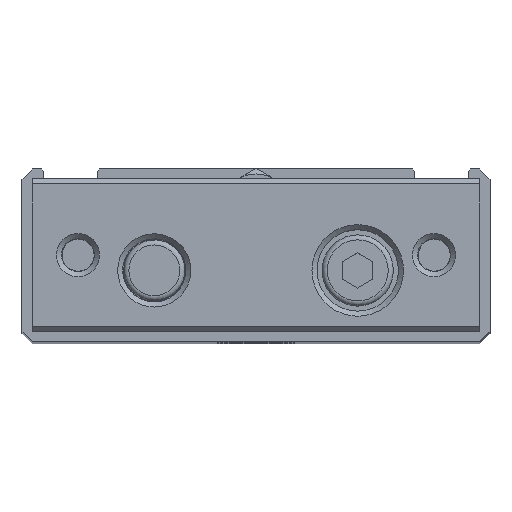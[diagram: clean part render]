
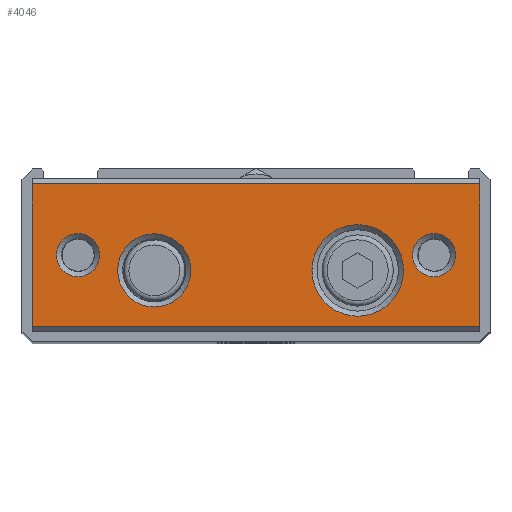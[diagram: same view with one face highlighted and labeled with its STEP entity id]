
A CAD part, top view. The second image highlights one B-rep face of the part: STEP entity #4046.
In plain terms, the highlighted planar face has unit normal (0, 0, 1).
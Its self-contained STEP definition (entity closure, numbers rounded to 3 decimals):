
#3142=CARTESIAN_POINT('',(22.0,7.0,109.));
#3143=VERTEX_POINT('',#3142);
#3151=CARTESIAN_POINT('',(-22.0,7.0,109.));
#3152=VERTEX_POINT('',#3151);
#3159=CARTESIAN_POINT('',(-22.0,7.0,109.));
#3160=DIRECTION('',(1.0,0.0,0.0));
#3161=VECTOR('',#3160,44.0);
#3162=LINE('',#3159,#3161);
#3163=EDGE_CURVE('',#3152,#3143,#3162,.T.);
#3239=CARTESIAN_POINT('',(-22.0,-7.0,109.));
#3240=VERTEX_POINT('',#3239);
#3247=CARTESIAN_POINT('',(-22.0,7.0,109.));
#3248=DIRECTION('',(0.0,-1.0,0.0));
#3249=VECTOR('',#3248,14.0);
#3250=LINE('',#3247,#3249);
#3251=EDGE_CURVE('',#3152,#3240,#3250,.T.);
#3403=CARTESIAN_POINT('',(22.0,-7.0,109.));
#3404=VERTEX_POINT('',#3403);
#3405=CARTESIAN_POINT('',(22.0,-7.0,109.));
#3406=DIRECTION('',(0.0,1.0,0.0));
#3407=VECTOR('',#3406,14.0);
#3408=LINE('',#3405,#3407);
#3409=EDGE_CURVE('',#3404,#3143,#3408,.T.);
#3982=CARTESIAN_POINT('',(14.5,-1.5,109.));
#3983=VERTEX_POINT('',#3982);
#3984=CARTESIAN_POINT('',(10.0,-1.5,109.));
#3985=DIRECTION('',(0.0,0.0,1.0));
#3986=DIRECTION('',(-1.0,0.0,0.0));
#3987=AXIS2_PLACEMENT_3D('',#3984,#3985,#3986);
#3988=CIRCLE('',#3987,4.5);
#3989=EDGE_CURVE('',#3983,#3983,#3988,.T.);
#3994=CARTESIAN_POINT('',(0.0,-7.5,109.));
#3995=DIRECTION('',(0.0,0.0,1.0));
#3996=DIRECTION('',(1.0,0.0,0.0));
#3997=AXIS2_PLACEMENT_3D('',#3994,#3995,#3996);
#3998=PLANE('',#3997);
#3999=ORIENTED_EDGE('',*,*,#3163,.F.);
#4000=ORIENTED_EDGE('',*,*,#3251,.T.);
#4001=CARTESIAN_POINT('',(22.0,-7.0,109.));
#4002=DIRECTION('',(-1.0,0.0,0.0));
#4003=VECTOR('',#4002,44.0);
#4004=LINE('',#4001,#4003);
#4005=EDGE_CURVE('',#3404,#3240,#4004,.T.);
#4006=ORIENTED_EDGE('',*,*,#4005,.F.);
#4007=ORIENTED_EDGE('',*,*,#3409,.T.);
#4008=EDGE_LOOP('',(#3999,#4000,#4006,#4007));
#4009=FACE_OUTER_BOUND('',#4008,.T.);
#4010=CARTESIAN_POINT('',(-6.4,-1.5,109.));
#4011=VERTEX_POINT('',#4010);
#4012=CARTESIAN_POINT('',(-10.0,-1.5,109.));
#4013=DIRECTION('',(0.0,0.0,1.0));
#4014=DIRECTION('',(-1.0,0.0,0.0));
#4015=AXIS2_PLACEMENT_3D('',#4012,#4013,#4014);
#4016=CIRCLE('',#4015,3.6);
#4017=EDGE_CURVE('',#4011,#4011,#4016,.T.);
#4018=ORIENTED_EDGE('',*,*,#4017,.F.);
#4019=EDGE_LOOP('',(#4018));
#4020=FACE_BOUND('',#4019,.T.);
#4021=CARTESIAN_POINT('',(19.621,0.,109.));
#4022=VERTEX_POINT('',#4021);
#4023=CARTESIAN_POINT('',(17.5,0.0,109.));
#4024=DIRECTION('',(0.0,0.0,1.0));
#4025=DIRECTION('',(-1.0,0.0,0.0));
#4026=AXIS2_PLACEMENT_3D('',#4023,#4024,#4025);
#4027=CIRCLE('',#4026,2.121);
#4028=EDGE_CURVE('',#4022,#4022,#4027,.T.);
#4029=ORIENTED_EDGE('',*,*,#4028,.F.);
#4030=EDGE_LOOP('',(#4029));
#4031=FACE_BOUND('',#4030,.T.);
#4032=CARTESIAN_POINT('',(-15.379,0.,109.));
#4033=VERTEX_POINT('',#4032);
#4034=CARTESIAN_POINT('',(-17.5,0.0,109.));
#4035=DIRECTION('',(0.0,0.0,1.0));
#4036=DIRECTION('',(-1.0,0.0,0.0));
#4037=AXIS2_PLACEMENT_3D('',#4034,#4035,#4036);
#4038=CIRCLE('',#4037,2.121);
#4039=EDGE_CURVE('',#4033,#4033,#4038,.T.);
#4040=ORIENTED_EDGE('',*,*,#4039,.F.);
#4041=EDGE_LOOP('',(#4040));
#4042=FACE_BOUND('',#4041,.T.);
#4043=ORIENTED_EDGE('',*,*,#3989,.F.);
#4044=EDGE_LOOP('',(#4043));
#4045=FACE_BOUND('',#4044,.T.);
#4046=ADVANCED_FACE('',(#4009,#4020,#4031,#4042,#4045),#3998,.T.);
